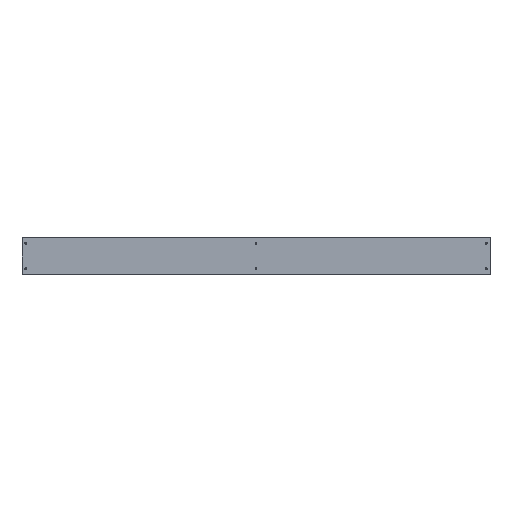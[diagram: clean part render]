
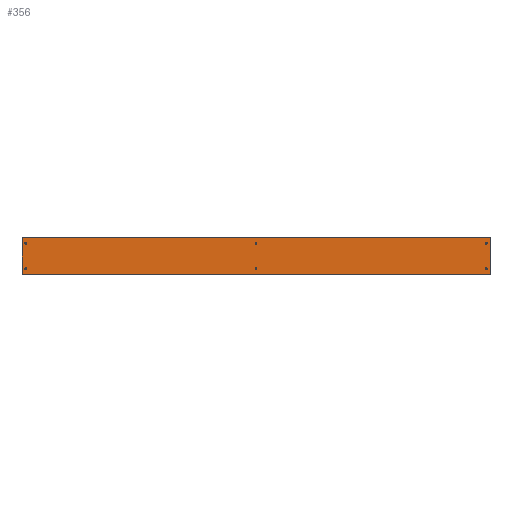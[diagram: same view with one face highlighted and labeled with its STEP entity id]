
A CAD part, top view. The second image highlights one B-rep face of the part: STEP entity #356.
In plain terms, the highlighted planar face has unit normal (0, 0, 1).
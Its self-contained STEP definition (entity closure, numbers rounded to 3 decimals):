
#96=CARTESIAN_POINT('',(380.02,5573.95,847.501));
#97=VERTEX_POINT('',#96);
#98=CARTESIAN_POINT('',(1618.02,5573.95,847.501));
#99=VERTEX_POINT('',#98);
#100=CARTESIAN_POINT('',(380.02,5573.95,847.501));
#101=DIRECTION('',(1.,0.,-0.));
#102=VECTOR('',#101,1238.);
#103=LINE('',#100,#102);
#104=EDGE_CURVE('',#97,#99,#103,.T.);
#146=CARTESIAN_POINT('',(379.02,5474.95,847.501));
#147=VERTEX_POINT('',#146);
#154=CARTESIAN_POINT('',(379.02,5572.95,847.501));
#155=VERTEX_POINT('',#154);
#156=CARTESIAN_POINT('',(379.02,5474.95,847.501));
#157=DIRECTION('',(0.,1.,0.));
#158=VECTOR('',#157,98.);
#159=LINE('',#156,#158);
#160=EDGE_CURVE('',#147,#155,#159,.T.);
#186=CARTESIAN_POINT('',(1618.02,5473.95,847.501));
#187=VERTEX_POINT('',#186);
#194=CARTESIAN_POINT('',(380.02,5473.95,847.501));
#195=VERTEX_POINT('',#194);
#196=CARTESIAN_POINT('',(1618.02,5473.95,847.501));
#197=DIRECTION('',(-1.,-0.,0.));
#198=VECTOR('',#197,1238.);
#199=LINE('',#196,#198);
#200=EDGE_CURVE('',#187,#195,#199,.T.);
#216=CARTESIAN_POINT('',(1619.02,5572.95,847.501));
#217=VERTEX_POINT('',#216);
#218=CARTESIAN_POINT('',(1619.02,5474.95,847.501));
#219=VERTEX_POINT('',#218);
#220=CARTESIAN_POINT('',(1619.02,5572.95,847.501));
#221=DIRECTION('',(0.,-1.,0.));
#222=VECTOR('',#221,98.);
#223=LINE('',#220,#222);
#224=EDGE_CURVE('',#217,#219,#223,.T.);
#251=CARTESIAN_POINT('',(2524.421,6414.8,847.501));
#252=DIRECTION('',(0.,0.,1.));
#253=DIRECTION('',(0.,1.,0.));
#254=AXIS2_PLACEMENT_3D('',#251,#252,#253);
#255=PLANE('',#254);
#256=CARTESIAN_POINT('',(1001.52,5557.95,847.501));
#257=VERTEX_POINT('',#256);
#258=CARTESIAN_POINT('',(999.02,5557.95,847.501));
#259=DIRECTION('',(0.,0.,1.));
#260=DIRECTION('',(1.,0.,-0.));
#261=AXIS2_PLACEMENT_3D('',#258,#259,#260);
#262=CIRCLE('',#261,2.5);
#263=EDGE_CURVE('',#257,#257,#262,.T.);
#264=ORIENTED_EDGE('',*,*,#263,.F.);
#265=EDGE_LOOP('',(#264));
#266=FACE_BOUND('',#265,.T.);
#267=CARTESIAN_POINT('',(391.52,5557.95,847.501));
#268=VERTEX_POINT('',#267);
#269=CARTESIAN_POINT('',(389.02,5557.95,847.501));
#270=DIRECTION('',(0.,0.,1.));
#271=DIRECTION('',(1.,0.,-0.));
#272=AXIS2_PLACEMENT_3D('',#269,#270,#271);
#273=CIRCLE('',#272,2.5);
#274=EDGE_CURVE('',#268,#268,#273,.T.);
#275=ORIENTED_EDGE('',*,*,#274,.F.);
#276=EDGE_LOOP('',(#275));
#277=FACE_BOUND('',#276,.T.);
#278=CARTESIAN_POINT('',(391.52,5489.95,847.501));
#279=VERTEX_POINT('',#278);
#280=CARTESIAN_POINT('',(389.02,5489.95,847.501));
#281=DIRECTION('',(0.,0.,1.));
#282=DIRECTION('',(1.,0.,-0.));
#283=AXIS2_PLACEMENT_3D('',#280,#281,#282);
#284=CIRCLE('',#283,2.5);
#285=EDGE_CURVE('',#279,#279,#284,.T.);
#286=ORIENTED_EDGE('',*,*,#285,.F.);
#287=EDGE_LOOP('',(#286));
#288=FACE_BOUND('',#287,.T.);
#289=CARTESIAN_POINT('',(1001.52,5489.95,847.501));
#290=VERTEX_POINT('',#289);
#291=CARTESIAN_POINT('',(999.02,5489.95,847.501));
#292=DIRECTION('',(0.,0.,1.));
#293=DIRECTION('',(1.,0.,-0.));
#294=AXIS2_PLACEMENT_3D('',#291,#292,#293);
#295=CIRCLE('',#294,2.5);
#296=EDGE_CURVE('',#290,#290,#295,.T.);
#297=ORIENTED_EDGE('',*,*,#296,.F.);
#298=EDGE_LOOP('',(#297));
#299=FACE_BOUND('',#298,.T.);
#300=CARTESIAN_POINT('',(1611.52,5557.95,847.501));
#301=VERTEX_POINT('',#300);
#302=CARTESIAN_POINT('',(1609.02,5557.95,847.501));
#303=DIRECTION('',(0.,0.,1.));
#304=DIRECTION('',(1.,0.,-0.));
#305=AXIS2_PLACEMENT_3D('',#302,#303,#304);
#306=CIRCLE('',#305,2.5);
#307=EDGE_CURVE('',#301,#301,#306,.T.);
#308=ORIENTED_EDGE('',*,*,#307,.F.);
#309=EDGE_LOOP('',(#308));
#310=FACE_BOUND('',#309,.T.);
#311=CARTESIAN_POINT('',(1611.52,5489.95,847.501));
#312=VERTEX_POINT('',#311);
#313=CARTESIAN_POINT('',(1609.02,5489.95,847.501));
#314=DIRECTION('',(0.,0.,1.));
#315=DIRECTION('',(1.,0.,-0.));
#316=AXIS2_PLACEMENT_3D('',#313,#314,#315);
#317=CIRCLE('',#316,2.5);
#318=EDGE_CURVE('',#312,#312,#317,.T.);
#319=ORIENTED_EDGE('',*,*,#318,.F.);
#320=EDGE_LOOP('',(#319));
#321=FACE_BOUND('',#320,.T.);
#322=ORIENTED_EDGE('',*,*,#200,.F.);
#323=CARTESIAN_POINT('',(1618.02,5474.95,847.501));
#324=DIRECTION('',(0.,0.,1.));
#325=DIRECTION('',(1.,0.,-0.));
#326=AXIS2_PLACEMENT_3D('',#323,#324,#325);
#327=CIRCLE('',#326,1.);
#328=EDGE_CURVE('',#187,#219,#327,.T.);
#329=ORIENTED_EDGE('',*,*,#328,.T.);
#330=ORIENTED_EDGE('',*,*,#224,.F.);
#331=CARTESIAN_POINT('',(1618.02,5572.95,847.501));
#332=DIRECTION('',(0.,0.,1.));
#333=DIRECTION('',(1.,0.,-0.));
#334=AXIS2_PLACEMENT_3D('',#331,#332,#333);
#335=CIRCLE('',#334,1.);
#336=EDGE_CURVE('',#217,#99,#335,.T.);
#337=ORIENTED_EDGE('',*,*,#336,.T.);
#338=ORIENTED_EDGE('',*,*,#104,.F.);
#339=CARTESIAN_POINT('',(380.02,5572.95,847.501));
#340=DIRECTION('',(0.,0.,1.));
#341=DIRECTION('',(1.,0.,-0.));
#342=AXIS2_PLACEMENT_3D('',#339,#340,#341);
#343=CIRCLE('',#342,1.);
#344=EDGE_CURVE('',#97,#155,#343,.T.);
#345=ORIENTED_EDGE('',*,*,#344,.T.);
#346=ORIENTED_EDGE('',*,*,#160,.F.);
#347=CARTESIAN_POINT('',(380.02,5474.95,847.501));
#348=DIRECTION('',(0.,0.,1.));
#349=DIRECTION('',(1.,0.,-0.));
#350=AXIS2_PLACEMENT_3D('',#347,#348,#349);
#351=CIRCLE('',#350,1.);
#352=EDGE_CURVE('',#147,#195,#351,.T.);
#353=ORIENTED_EDGE('',*,*,#352,.T.);
#354=EDGE_LOOP('',(#322,#329,#330,#337,#338,#345,#346,#353));
#355=FACE_BOUND('',#354,.T.);
#356=ADVANCED_FACE('',(#266,#277,#288,#299,#310,#321,#355),#255,.T.);
